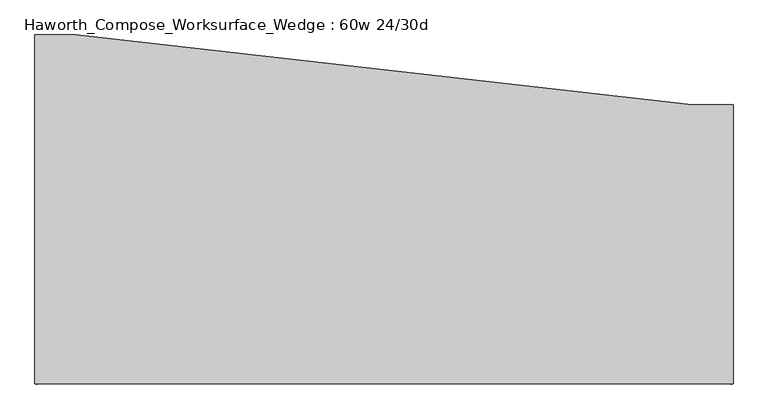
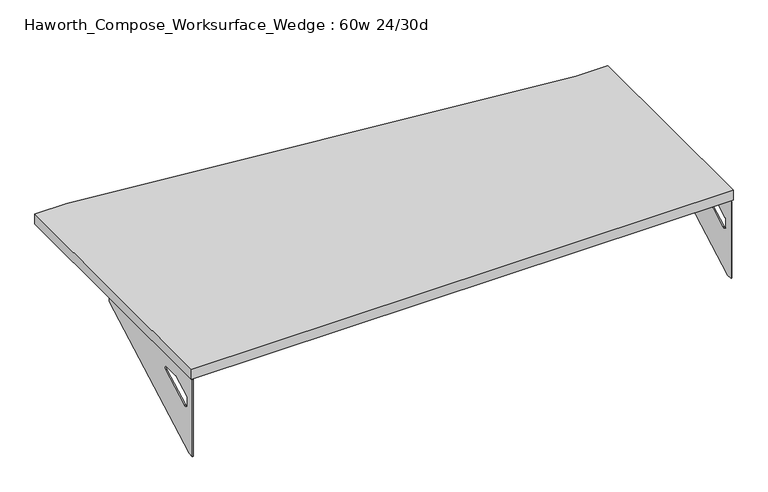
"""IFC4 building model written with IfcOpenShell, lengths in millimetres: furniture geometry, Haworth_Compose_Worksurface_Wedge : 60w 24/30d."""

from ifc_helpers import new_model, si_unit, frame, origin, place, context, project, spatial, polyline, circle_curve, outline, extrude, source, transform, mapped, element, save
from ifc_brep_helpers import plane_surface, revolved_surface, advanced_brep


def haworth_compose_worksurface_wedge_60w_24_30d_cf931e97(model_context):
    return source(origin(), model_context, "Body", "SolidModel", [
        advanced_brep(
        [(756.44375, -381.0, 475.45625), (756.44375, -381.0, 704.05625), (756.44375, -365.125, 704.05625), (756.44375, 25.4, 704.05625), (756.44375, 25.4, 691.7192568), (756.44375, -365.125, 475.45625), (756.44375, -297.690072, 665.95625), (756.44375, -300.7663437, 665.1613425), (756.44375, -350.6730055, 637.5242776), (756.44375, -352.425, 634.6860246), (756.44375, -352.425, 611.1756969), (756.44375, -343.0776173, 605.5776439), (756.44375, -251.3564235, 656.3705539), (756.44375, -254.0355284, 665.95625), (758.825, -381.0, 475.45625), (758.825, -365.125, 475.45625), (758.825, 25.4, 691.7192568), (758.825, 25.4, 706.4375), (758.825, -365.125, 706.4375), (758.825, -365.125, 704.05625), (758.825, -381.0, 704.05625), (758.825, -297.690072, 665.95625), (758.825, -254.0355284, 665.95625), (758.825, -251.3564235, 656.3705539), (758.825, -343.0776173, 605.5776439), (758.825, -352.425, 611.1756969), (758.825, -352.425, 634.6860246), (758.825, -350.6730055, 637.5242776), (758.825, -300.7663437, 665.1613425), (717.55, 25.4, 704.05625), (717.55, 25.4, 706.4375), (717.55, -365.125, 704.05625), (717.55, -365.125, 706.4375)],
        [
            (0, 1),
            (1, 2),
            (2, 3),
            (3, 4),
            (4, 5),
            (5, 0),
            (6, 7, circle_curve(frame((756.44375, -297.690072, 659.60625), z_axis=(1.0, 0.0, 0.0), x_axis=(0.0, 1.0, 0.0)), 6.35)),
            (7, 8),
            (8, 9, circle_curve(frame((756.44375, -349.25, 634.6860246), z_axis=(1.0, 0.0, 0.0), x_axis=(0.0, 1.0, 0.0)), 3.175)),
            (9, 10),
            (10, 11, circle_curve(frame((756.44375, -346.075, 611.1756969), z_axis=(1.0, 0.0, 0.0), x_axis=(0.0, 1.0, 0.0)), 6.35)),
            (11, 12),
            (12, 13, circle_curve(frame((756.44375, -254.0355284, 660.7890106), z_axis=(1.0, 0.0, 0.0), x_axis=(0.0, 1.0, 0.0)), 5.1672394)),
            (13, 6),
            (14, 15),
            (15, 16),
            (16, 17),
            (17, 18),
            (18, 19),
            (19, 20),
            (20, 14),
            (21, 22),
            (22, 23, circle_curve(frame((758.825, -254.0355284, 660.7890106), z_axis=(-1.0, 0.0, 0.0), x_axis=(0.0, 1.0, 0.0)), 5.1672394)),
            (23, 24),
            (24, 25, circle_curve(frame((758.825, -346.075, 611.1756969), z_axis=(-1.0, 0.0, 0.0), x_axis=(0.0, 1.0, 0.0)), 6.35)),
            (25, 26),
            (26, 27, circle_curve(frame((758.825, -349.25, 634.6860246), z_axis=(-1.0, 0.0, 0.0), x_axis=(0.0, 1.0, 0.0)), 3.175)),
            (27, 28),
            (28, 21, circle_curve(frame((758.825, -297.690072, 659.60625), z_axis=(-1.0, 0.0, 0.0), x_axis=(0.0, 1.0, 0.0)), 6.35)),
            (1, 20),
            (19, 2),
            (0, 14),
            (5, 15),
            (4, 16),
            (3, 29),
            (29, 30),
            (30, 17),
            (13, 22),
            (21, 6),
            (10, 25),
            (24, 11),
            (9, 26),
            (8, 27),
            (12, 23),
            (31, 29),
            (2, 31),
            (32, 18),
            (30, 32),
            (32, 31),
            (7, 28),
        ],
        [
            plane_surface(frame((756.44375, -381.0, 475.45625), z_axis=(-1.0, 0.0, 0.0), x_axis=(0.0, -1.0, 0.0))),
            plane_surface(frame((758.825, -381.0, 475.45625), z_axis=(1.0, 0.0, 0.0), x_axis=(0.0, 1.0, 0.0))),
            plane_surface(frame((758.825, 25.4, 704.05625), z_axis=(0.0, 0.0, 1.0), x_axis=(-1.0, 0.0, 0.0))),
            plane_surface(frame((758.825, -381.0, 704.05625), z_axis=(0.0, -1.0, 0.0), x_axis=(-1.0, 0.0, 0.0))),
            plane_surface(frame((758.825, -381.0, 475.45625), z_axis=(0.0, 0.0, -1.0), x_axis=(-1.0, 0.0, 0.0))),
            plane_surface(frame((758.825, -365.125, 475.45625), z_axis=(0.0, 0.48445223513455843, -0.8748177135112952), x_axis=(-1.0, 0.0, 0.0))),
            plane_surface(frame((758.825, 25.4, 691.7192568), z_axis=(0.0, 1.0, 0.0), x_axis=(-1.0, 0.0, 0.0))),
            plane_surface(frame((758.825, -297.690072, 665.95625), z_axis=(0.0, 0.0, -1.0), x_axis=(-1.0, 0.0, 0.0))),
            revolved_surface(polyline([(756.44375, -339.72499999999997, 611.1756969), (758.825, -339.72499999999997, 611.1756969)]), (758.825, -346.075, 611.1756969), (-1.0, 0.0, 0.0)),
            plane_surface(frame((758.825, -352.425, 611.1756969), z_axis=(0.0, 1.0, 0.0), x_axis=(-1.0, 0.0, 0.0))),
            revolved_surface(polyline([(756.44375, -346.075, 634.6860246), (758.825, -346.075, 634.6860246)]), (758.825, -349.25, 634.6860246), (-1.0, 0.0, 0.0)),
            revolved_surface(polyline([(756.44375, -248.868289, 660.7890106), (758.825, -248.868289, 660.7890106)]), (758.825, -254.0355284, 660.7890106), (-1.0, 0.0, 0.0)),
            plane_surface(frame((758.825, -365.125, 704.05625), z_axis=(0.0, 0.0, -1.0), x_axis=(-1.0, 0.0, 0.0))),
            plane_surface(frame((758.825, -365.125, 706.4375), z_axis=(0.0, 0.0, 1.0), x_axis=(1.0, 0.0, 0.0))),
            plane_surface(frame((717.55, -365.125, 706.4375), z_axis=(0.0, -1.0, 0.0), x_axis=(0.0, 0.0, -1.0))),
            plane_surface(frame((717.55, 25.4, 706.4375), z_axis=(-1.0, 0.0, 0.0), x_axis=(0.0, 0.0, -1.0))),
            plane_surface(frame((758.825, -251.3564235, 656.3705539), z_axis=(0.0, -0.4844522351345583, 0.8748177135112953), x_axis=(-1.0, 0.0, 0.0))),
            plane_surface(frame((758.825, -350.6730055, 637.5242776), z_axis=(0.0, 0.4844522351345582, -0.8748177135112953), x_axis=(-1.0, 0.0, 0.0))),
            revolved_surface(polyline([(756.44375, -291.34007199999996, 659.60625), (758.825, -291.34007199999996, 659.60625)]), (758.825, -297.690072, 659.60625), (-1.0, 0.0, 0.0)),
        ],
        [
            (0, [[1, 2, 3, 4, 5, 6], [7, 8, 9, 10, 11, 12, 13, 14]]),
            (1, [[15, 16, 17, 18, 19, 20, 21], [22, 23, 24, 25, 26, 27, 28, 29]]),
            (2, [[30, -20, 31, -2]]),
            (3, [[-1, 32, -21, -30]]),
            (4, [[-6, 33, -15, -32]]),
            (5, [[-5, 34, -16, -33]]),
            (6, [[-4, 35, 36, 37, -17, -34]]),
            (7, [[-14, 38, -22, 39]]),
            (8, [[-11, 40, -25, 41]]),
            (9, [[-10, 42, -26, -40]]),
            (10, [[-9, 43, -27, -42]]),
            (11, [[-13, 44, -23, -38]]),
            (12, [[45, -35, -3, 46]]),
            (13, [[47, -18, -37, 48]]),
            (14, [[-47, 49, -46, -31, -19]]),
            (15, [[-45, -49, -48, -36]]),
            (16, [[-12, -41, -24, -44]]),
            (17, [[-8, 50, -28, -43]]),
            (18, [[-7, -39, -29, -50]]),
        ],
    ),
        advanced_brep(
        [(-756.44375, -381.0, 475.45625), (-756.44375, -365.125, 475.45625), (-756.44375, 25.4, 691.7192568), (-756.44375, 25.4, 704.05625), (-756.44375, -365.125, 704.05625), (-756.44375, -381.0, 704.05625), (-756.44375, -297.690072, 665.95625), (-756.44375, -254.0355284, 665.95625), (-756.44375, -251.3564235, 656.3705539), (-756.44375, -343.0776173, 605.5776439), (-756.44375, -352.425, 611.1756969), (-756.44375, -352.425, 634.6860246), (-756.44375, -350.6730055, 637.5242776), (-756.44375, -300.7663437, 665.1613425), (-758.825, -381.0, 475.45625), (-758.825, -381.0, 704.05625), (-758.825, -365.125, 704.05625), (-758.825, -365.125, 706.4375), (-758.825, 25.4, 706.4375), (-758.825, 25.4, 691.7192568), (-758.825, -365.125, 475.45625), (-758.825, -297.690072, 665.95625), (-758.825, -300.7663437, 665.1613425), (-758.825, -350.6730055, 637.5242776), (-758.825, -352.425, 634.6860246), (-758.825, -352.425, 611.1756969), (-758.825, -343.0776173, 605.5776439), (-758.825, -251.3564235, 656.3705539), (-758.825, -254.0355284, 665.95625), (-717.55, 25.4, 706.4375), (-717.55, 25.4, 704.05625), (-717.55, -365.125, 704.05625), (-717.55, -365.125, 706.4375)],
        [
            (0, 1),
            (1, 2),
            (2, 3),
            (3, 4),
            (4, 5),
            (5, 0),
            (6, 7),
            (7, 8, circle_curve(frame((-756.44375, -254.0355284, 660.7890106), z_axis=(-1.0, 0.0, 0.0), x_axis=(0.0, 1.0, 0.0)), 5.1672394)),
            (8, 9),
            (9, 10, circle_curve(frame((-756.44375, -346.075, 611.1756969), z_axis=(-1.0, 0.0, 0.0), x_axis=(0.0, 1.0, 0.0)), 6.35)),
            (10, 11),
            (11, 12, circle_curve(frame((-756.44375, -349.25, 634.6860246), z_axis=(-1.0, 0.0, 0.0), x_axis=(0.0, 1.0, 0.0)), 3.175)),
            (12, 13),
            (13, 6, circle_curve(frame((-756.44375, -297.690072, 659.60625), z_axis=(-1.0, 0.0, 0.0), x_axis=(0.0, 1.0, 0.0)), 6.35)),
            (14, 15),
            (15, 16),
            (16, 17),
            (17, 18),
            (18, 19),
            (19, 20),
            (20, 14),
            (21, 22, circle_curve(frame((-758.825, -297.690072, 659.60625), z_axis=(1.0, 0.0, 0.0), x_axis=(0.0, 1.0, 0.0)), 6.35)),
            (22, 23),
            (23, 24, circle_curve(frame((-758.825, -349.25, 634.6860246), z_axis=(1.0, 0.0, 0.0), x_axis=(0.0, 1.0, 0.0)), 3.175)),
            (24, 25),
            (25, 26, circle_curve(frame((-758.825, -346.075, 611.1756969), z_axis=(1.0, 0.0, 0.0), x_axis=(0.0, 1.0, 0.0)), 6.35)),
            (26, 27),
            (27, 28, circle_curve(frame((-758.825, -254.0355284, 660.7890106), z_axis=(1.0, 0.0, 0.0), x_axis=(0.0, 1.0, 0.0)), 5.1672394)),
            (28, 21),
            (4, 16),
            (15, 5),
            (14, 0),
            (20, 1),
            (19, 2),
            (18, 29),
            (29, 30),
            (30, 3),
            (6, 21),
            (28, 7),
            (9, 26),
            (25, 10),
            (24, 11),
            (23, 12),
            (27, 8),
            (31, 4),
            (30, 31),
            (32, 29),
            (17, 32),
            (31, 32),
            (22, 13),
        ],
        [
            plane_surface(frame((-756.44375, -381.0, 475.45625), z_axis=(1.0, 0.0, 0.0), x_axis=(0.0, -1.0, 0.0))),
            plane_surface(frame((-758.825, -381.0, 475.45625), z_axis=(-1.0, 0.0, 0.0), x_axis=(0.0, 1.0, 0.0))),
            plane_surface(frame((-758.825, 25.4, 704.05625), z_axis=(0.0, 0.0, 1.0), x_axis=(1.0, 0.0, 0.0))),
            plane_surface(frame((-758.825, -381.0, 704.05625), z_axis=(0.0, -1.0, 0.0), x_axis=(1.0, 0.0, 0.0))),
            plane_surface(frame((-758.825, -381.0, 475.45625), z_axis=(0.0, 0.0, -1.0), x_axis=(1.0, 0.0, 0.0))),
            plane_surface(frame((-758.825, -365.125, 475.45625), z_axis=(0.0, 0.48445223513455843, -0.8748177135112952), x_axis=(1.0, 0.0, 0.0))),
            plane_surface(frame((-758.825, 25.4, 691.7192568), z_axis=(0.0, 1.0, 0.0), x_axis=(1.0, 0.0, 0.0))),
            plane_surface(frame((-758.825, -297.690072, 665.95625), z_axis=(0.0, 0.0, -1.0), x_axis=(1.0, 0.0, 0.0))),
            revolved_surface(polyline([(-756.44375, -339.72499999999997, 611.1756969), (-758.825, -339.72499999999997, 611.1756969)]), (-758.825, -346.075, 611.1756969), (1.0, 0.0, 0.0)),
            plane_surface(frame((-758.825, -352.425, 611.1756969), z_axis=(0.0, 1.0, 0.0), x_axis=(1.0, 0.0, 0.0))),
            revolved_surface(polyline([(-756.44375, -346.075, 634.6860246), (-758.825, -346.075, 634.6860246)]), (-758.825, -349.25, 634.6860246), (1.0, 0.0, 0.0)),
            revolved_surface(polyline([(-756.44375, -248.868289, 660.7890106), (-758.825, -248.868289, 660.7890106)]), (-758.825, -254.0355284, 660.7890106), (1.0, 0.0, 0.0)),
            plane_surface(frame((-758.825, -365.125, 704.05625), z_axis=(0.0, 0.0, -1.0), x_axis=(1.0, 0.0, 0.0))),
            plane_surface(frame((-758.825, -365.125, 706.4375), z_axis=(0.0, 0.0, 1.0), x_axis=(-1.0, 0.0, 0.0))),
            plane_surface(frame((-717.55, -365.125, 706.4375), z_axis=(0.0, -1.0, 0.0), x_axis=(0.0, 0.0, -1.0))),
            plane_surface(frame((-717.55, 25.4, 706.4375), z_axis=(1.0, 0.0, 0.0), x_axis=(0.0, 0.0, -1.0))),
            plane_surface(frame((-758.825, -251.3564235, 656.3705539), z_axis=(0.0, -0.4844522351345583, 0.8748177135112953), x_axis=(1.0, 0.0, 0.0))),
            plane_surface(frame((-758.825, -350.6730055, 637.5242776), z_axis=(0.0, 0.4844522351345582, -0.8748177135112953), x_axis=(1.0, 0.0, 0.0))),
            revolved_surface(polyline([(-756.44375, -291.34007199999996, 659.60625), (-758.825, -291.34007199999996, 659.60625)]), (-758.825, -297.690072, 659.60625), (1.0, 0.0, 0.0)),
        ],
        [
            (0, [[1, 2, 3, 4, 5, 6], [7, 8, 9, 10, 11, 12, 13, 14]]),
            (1, [[15, 16, 17, 18, 19, 20, 21], [22, 23, 24, 25, 26, 27, 28, 29]]),
            (2, [[-5, 30, -16, 31]]),
            (3, [[-31, -15, 32, -6]]),
            (4, [[-32, -21, 33, -1]]),
            (5, [[-33, -20, 34, -2]]),
            (6, [[-34, -19, 35, 36, 37, -3]]),
            (7, [[38, -29, 39, -7]]),
            (8, [[40, -26, 41, -10]]),
            (9, [[-41, -25, 42, -11]]),
            (10, [[-42, -24, 43, -12]]),
            (11, [[-39, -28, 44, -8]]),
            (12, [[45, -4, -37, 46]]),
            (13, [[47, -35, -18, 48]]),
            (14, [[-17, -30, -45, 49, -48]]),
            (15, [[-36, -47, -49, -46]]),
            (16, [[-44, -27, -40, -9]]),
            (17, [[-43, -23, 50, -13]]),
            (18, [[-50, -22, -38, -14]]),
        ],
    ),
        extrude(outline(polyline([(762.0, -381.0), (-762.0, -381.0), (-762.0, 381.0), (-673.1, 381.0), (673.1, 228.6), (762.0, 228.6), (762.0, -381.0)])), frame((0.0, 0.0, 706.4375), z_axis=(0.0, 0.0, 1.0), x_axis=(1.0, 0.0, 0.0)), (0.0, 0.0, 1.0), 30.1625),
    ])


if __name__ == "__main__":
    model = new_model("IFC4")
    model_context = context("Model", 3, world=origin())
    ifc_project = project(units=[si_unit("LENGTHUNIT", "METRE", prefix="MILLI")], contexts=[model_context])
    site = spatial("IfcSite", under=ifc_project)
    building = spatial("IfcBuilding", under=site)
    placement = place(None, origin())
    haworth_compose_worksurface_wedge_60w_24_30d_shape = haworth_compose_worksurface_wedge_60w_24_30d_cf931e97(model_context)
    element("IfcFurniture", 1, ObjectType="Haworth_Compose_Worksurface_Wedge : 60w 24/30d", at=placement, inside=building, context=model_context, shape_type="MappedRepresentation", body=[
        mapped(haworth_compose_worksurface_wedge_60w_24_30d_shape, transform((0.0, 0.0, 0.0), x_axis=(1.0, 0.0, 0.0), y_axis=(0.0, 1.0, 0.0), z_axis=(0.0, 0.0, 1.0))),
    ])
    save(model, "model.ifc")
